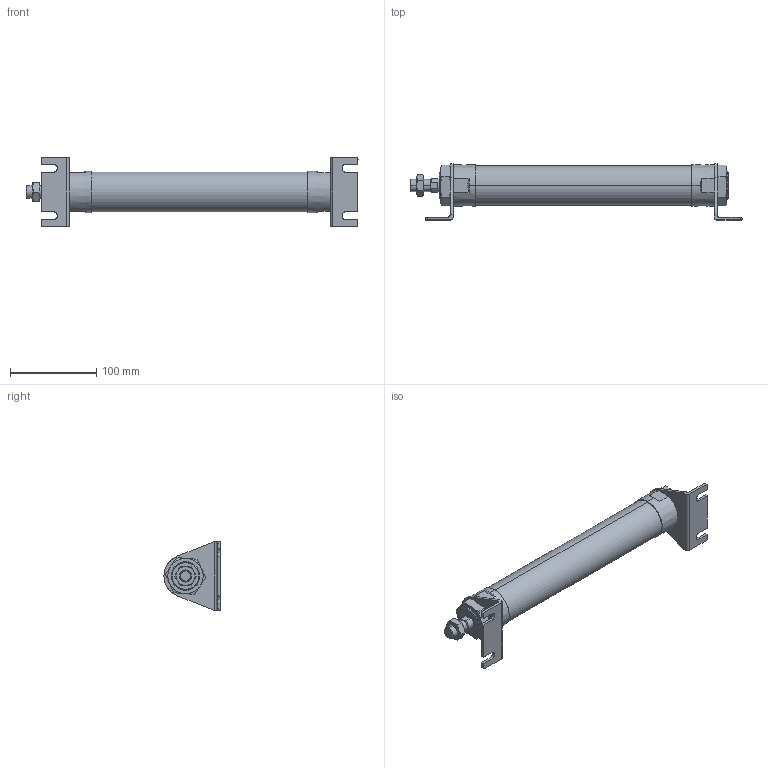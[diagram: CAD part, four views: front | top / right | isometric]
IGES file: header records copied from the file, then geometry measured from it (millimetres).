
Start section: SolidWorks IGES file using analytic representation for surfaces
Global section: file name: C:\Users\Toshiba\Desktop\J#2-40-200-L.IGS; native system: SolidWorks 2014; preprocessor: SolidWorks 2014; author: Toshiba; date: 160310.090752; units: millimetre
Bounding box: 385.2 x 65 x 80 mm (x, y, z)
Surface area: 85489.1 mm2 (no closed solid volume)
Topology: 0 solids, 0 shells, 170 faces, 3118 edges, 3114 vertices
Faces by surface type: bspline 107, revolution 63
